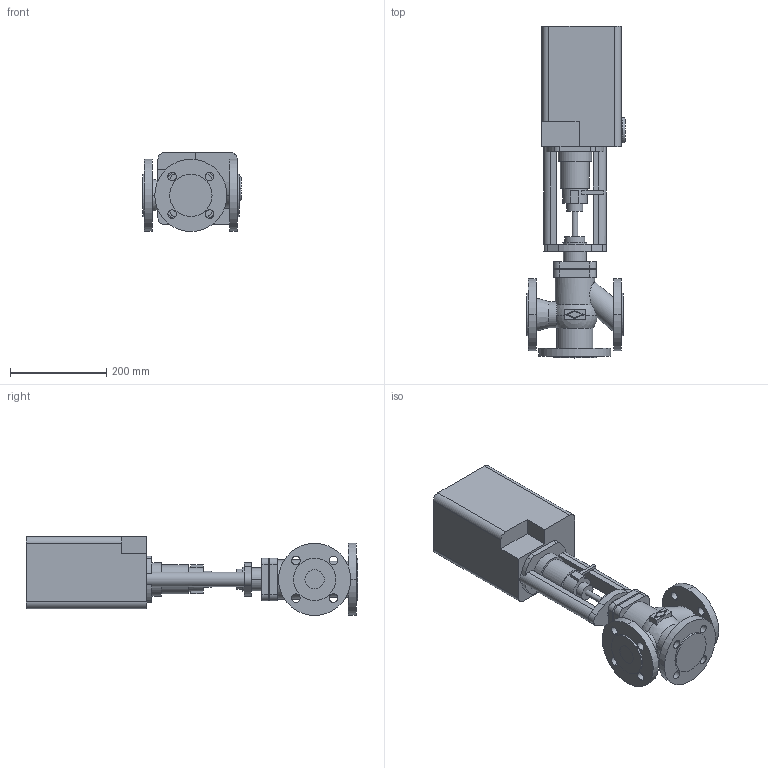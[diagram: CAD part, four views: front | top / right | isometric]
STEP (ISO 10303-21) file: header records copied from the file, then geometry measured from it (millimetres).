
FILE_DESCRIPTION(('OneSpaceDesigner STEP Export'),'2;1');
FILE_NAME('c000002379.stp','2006-09-19T11:51:59',(''),(''),'OneSpace Designer STEP processor for AP214 (Solid Model)','OneSpace Designer 13.20A 18-Aug-2005 (C) CoCreate Software GmbH','');
FILE_SCHEMA(('AUTOMOTIVE_DESIGN { 1 0 10303 214 1 1 1 1 }'));
Length unit declared in the file: millimetre
Products named in the file (2): 1; 2
Bounding box: 204.6 x 689.5 x 164 mm (x, y, z)
Volume: 9039285.7 mm3; surface area: 498470.2 mm2
Topology: 2 solids, 2 shells, 196 faces, 499 edges, 331 vertices
Faces by surface type: cylinder 94, plane 94, sphere 4, cone 2, torus 2
Entity records: 5708 total; most frequent: CARTESIAN_POINT 1154, ORIENTED_EDGE 998, DIRECTION 863, EDGE_CURVE 499, VERTEX_POINT 331, AXIS2_PLACEMENT_3D 301, VECTOR 261, LINE 261
